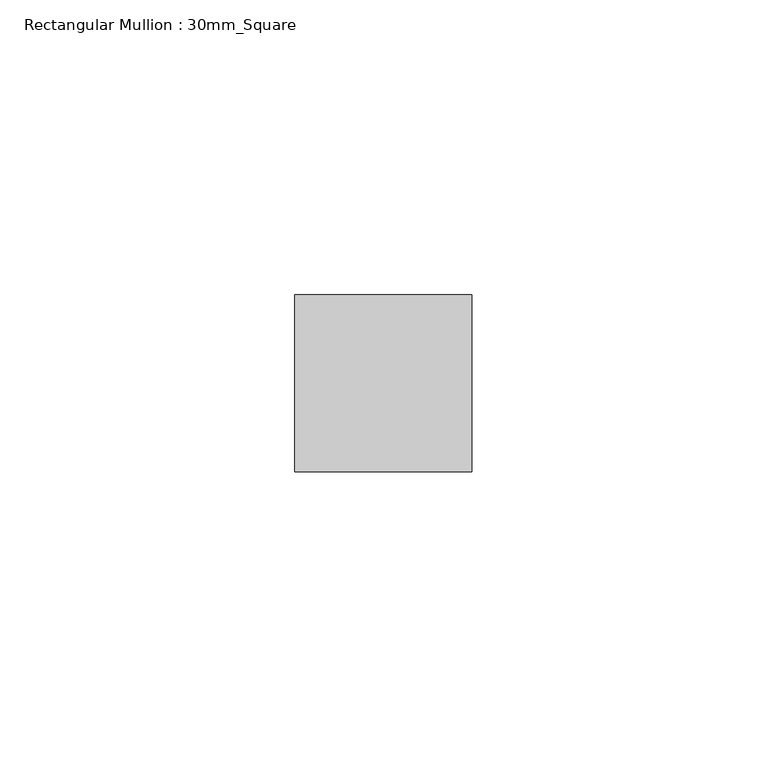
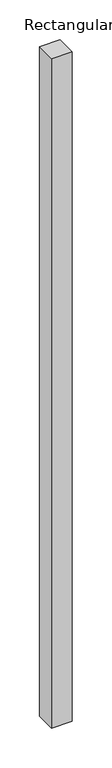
"""IFC4 building model written with IfcOpenShell, lengths in millimetres: member geometry, Rectangular Mullion : 30mm_Square."""

from ifc_helpers import new_model, si_unit, frame, origin, place, context, project, spatial, polyline, outline, extrude, source, transform, mapped, element, save


def rectangular_mullion_30mm_square_6b0322cd(model_context):
    return source(origin(), model_context, "Body", "SweptSolid", [
        extrude(outline(polyline([(15.0, 2.5), (15.0, -27.5), (-15.0, -27.5), (-15.0, 2.5), (15.0, 2.5)])), frame((0.0, 0.0, -1027.1428571), z_axis=(0.0, 0.0, 1.0), x_axis=(1.0, 0.0, 0.0)), (0.0, 0.0, 1.0), 1027.1428571),
    ])


if __name__ == "__main__":
    model = new_model("IFC4")
    model_context = context("Model", 3, world=origin())
    ifc_project = project(units=[si_unit("LENGTHUNIT", "METRE", prefix="MILLI")], contexts=[model_context])
    site = spatial("IfcSite", under=ifc_project)
    building = spatial("IfcBuilding", under=site)
    placement = place(None, origin())
    rectangular_mullion_30mm_square_shape = rectangular_mullion_30mm_square_6b0322cd(model_context)
    element("IfcMember", 1, ObjectType="Rectangular Mullion : 30mm_Square", at=placement, inside=building, context=model_context, shape_type="MappedRepresentation", body=[
        mapped(rectangular_mullion_30mm_square_shape, transform((0.0, 0.0, 0.0), x_axis=(1.0, 0.0, 0.0), y_axis=(0.0, 1.0, 0.0), z_axis=(0.0, 0.0, 1.0))),
    ])
    save(model, "model.ifc")
